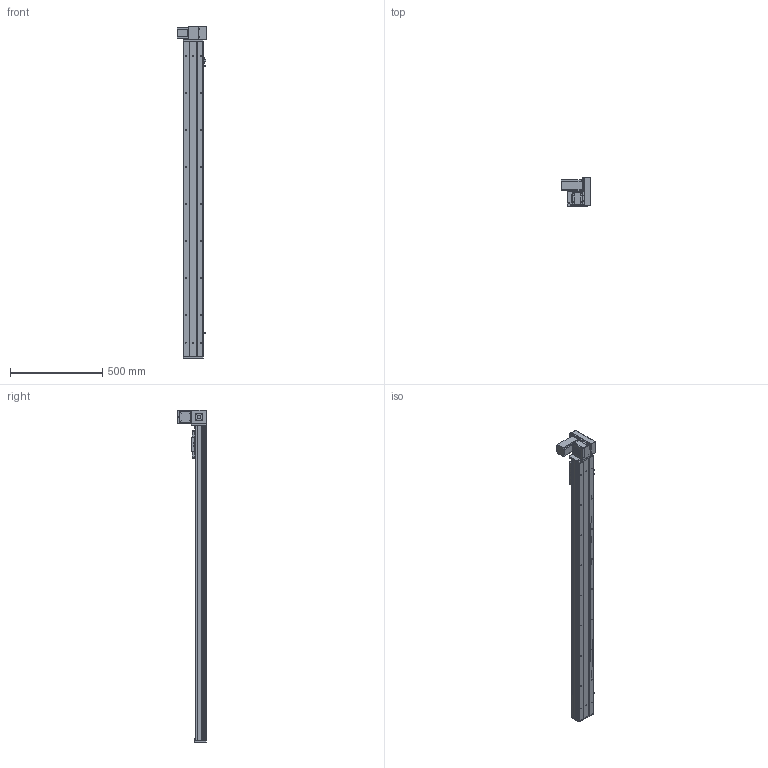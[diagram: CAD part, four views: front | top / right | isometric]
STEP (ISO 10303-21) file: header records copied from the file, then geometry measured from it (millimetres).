
FILE_DESCRIPTION (( 'STEP AP203' ), '1' );
FILE_NAME ('Y10CB-D90-S1450-UR-P400W.STEP', '2020-02-16T03:48:12', ( '微软用户' ), ( '微软中国' ), 'SwSTEP 2.0', 'SolidWorks 2017', '' );
FILE_SCHEMA (( 'CONFIG_CONTROL_DESIGN' ));
Length unit declared in the file: millimetre
Products named in the file (18): Y10B-耜蚾蟀諉啣----; 10CB-詩湍-; 00B-俋欶BM--; Y10CB- 掛极耜裔啣-毀---; 0CB-雄赽釱---; Y10CB-D90-S1450-UR-P400W; Y10C---詩湍揤啣; 0Cb-俋欶---; 10CB9-掛极; Y10B-々湍喘謫眊楊擘啣--; 10CB-耜裔; 0B-萇儂楊擘啣; Y135C-陔俋离換覜結え-; san松下电机400不带刹车----; Y100-135俋离換覜ん--; 0B-源倛裔啣; Y10B--々湍喘謫眊--666; 0B-埴倛裔啣
Assembly tree (21 placements, depth 2):
  Y10CB-D90-S1450-UR-P400W
    0CB-雄赽釱---
    0Cb-俋欶---
    Y10B-々湍喘謫眊楊擘啣--
    0B-萇儂楊擘啣
    san松下电机400不带刹车----
    0B-源倛裔啣
    0B-埴倛裔啣
    10CB-詩湍-
    Y10CB- 掛极耜裔啣-毀---  x2
    Y10C---詩湍揤啣  x2
    10CB9-掛极
    10CB-耜裔
    Y135C-陔俋离換覜結え-
    Y100-135俋离換覜ん--  x3
    Y10B--々湍喘謫眊--666
    Y10B-耜蚾蟀諉啣----
    00B-俋欶BM--
Bounding box: 157 x 155.5 x 1796 mm (x, y, z)
Volume: 3921208.4 mm3; surface area: 1807676.8 mm2
Topology: 21 solids, 21 shells, 1014 faces, 2723 edges, 1778 vertices
Faces by surface type: cylinder 509, plane 481, cone 24
Entity records: 31912 total; most frequent: CARTESIAN_POINT 5765, DIRECTION 5134, ORIENTED_EDGE 4916, EDGE_CURVE 2458, AXIS2_PLACEMENT_3D 1837, VERTEX_POINT 1604, VECTOR 1460, LINE 1460
